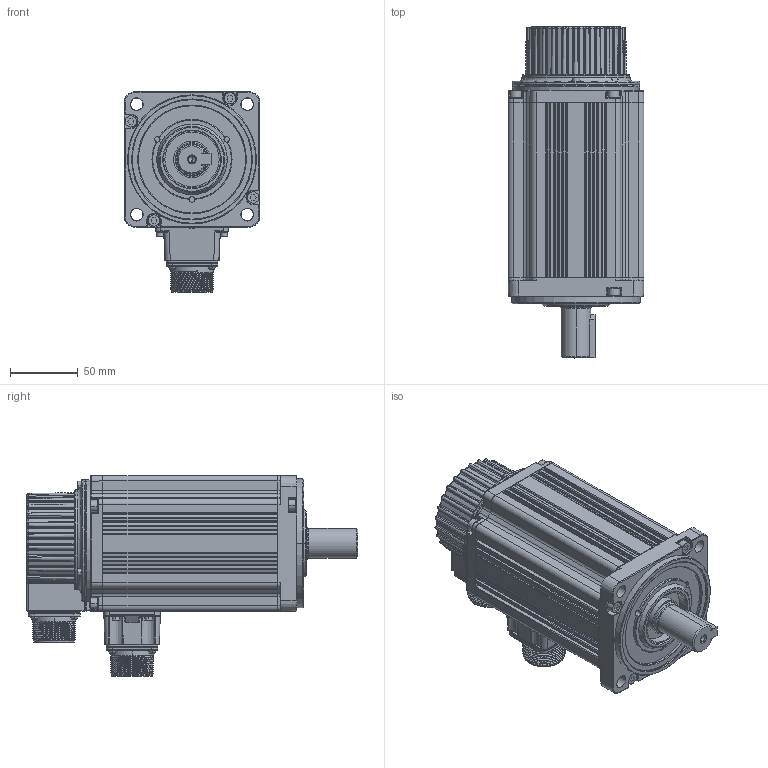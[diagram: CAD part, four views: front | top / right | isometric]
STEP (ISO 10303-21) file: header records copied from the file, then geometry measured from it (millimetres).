
FILE_DESCRIPTION((''),'2;1');
FILE_NAME('TLP-X115-200-DJMX2X_SW0001','2019-08-28T',('JIADE.CHEN'),(''),'CREO PARAMETRIC BY PTC INC, 2015080','CREO PARAMETRIC BY PTC INC, 2015080','');
FILE_SCHEMA(('CONFIG_CONTROL_DESIGN'));
Products named in the file (1): TLP-X115-200-DJMX2X_SW0001
Bounding box: 100 x 244.4 x 148 mm (x, y, z)
Volume: 1662096.7 mm3; surface area: 136103.3 mm2
Topology: 1 solids, 4 shells, 2244 faces, 5686 edges, 3455 vertices
Faces by surface type: plane 752, cylinder 728, torus 366, cone 198, bspline 127, sphere 71, extrusion 2
Entity records: 92891 total; most frequent: CARTESIAN_POINT 27490, DIRECTION 11547, ORIENTED_EDGE 11100, EDGE_CURVE 5550, AXIS2_PLACEMENT_3D 4478, VERTEX_POINT 3455, VECTOR 2591, LINE 2589
